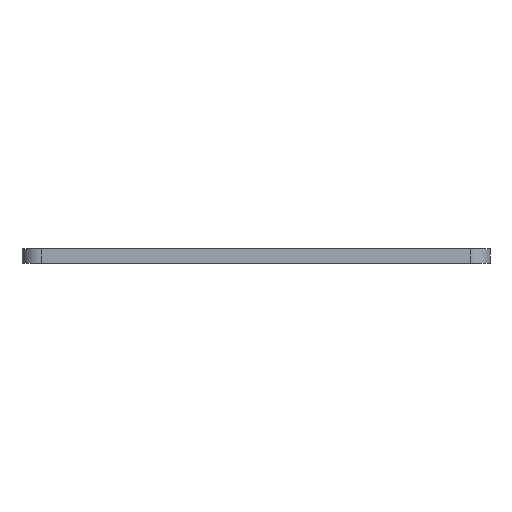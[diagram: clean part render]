
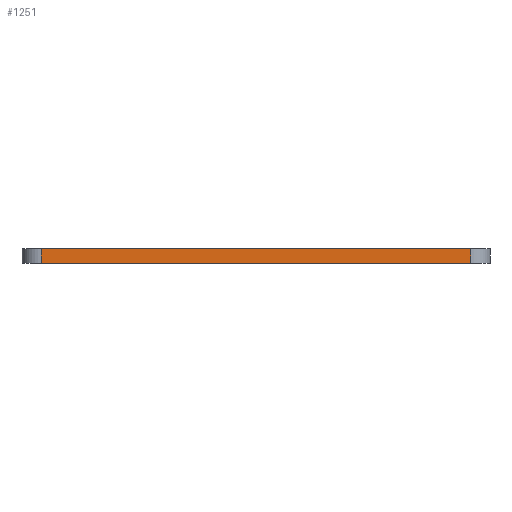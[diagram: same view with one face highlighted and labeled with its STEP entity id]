
A CAD part, left-side view. The second image highlights one B-rep face of the part: STEP entity #1251.
In plain terms, the highlighted planar face has unit normal (-1, 0, 0).
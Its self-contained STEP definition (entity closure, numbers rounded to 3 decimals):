
#54=PLANE('',#1354);
#87=FACE_OUTER_BOUND('',#154,.T.);
#154=EDGE_LOOP('',(#919,#920,#921,#922));
#227=LINE('',#1805,#353);
#229=LINE('',#1811,#355);
#267=LINE('',#1941,#393);
#268=LINE('',#1942,#394);
#353=VECTOR('',#1445,10.);
#355=VECTOR('',#1451,10.);
#393=VECTOR('',#1545,10.);
#394=VECTOR('',#1546,10.);
#536=VERTEX_POINT('',#1802);
#537=VERTEX_POINT('',#1804);
#539=VERTEX_POINT('',#1810);
#603=VERTEX_POINT('',#1940);
#660=EDGE_CURVE('',#536,#537,#227,.T.);
#663=EDGE_CURVE('',#539,#537,#229,.T.);
#728=EDGE_CURVE('',#603,#536,#267,.T.);
#729=EDGE_CURVE('',#539,#603,#268,.T.);
#919=ORIENTED_EDGE('',*,*,#660,.F.);
#920=ORIENTED_EDGE('',*,*,#728,.F.);
#921=ORIENTED_EDGE('',*,*,#729,.F.);
#922=ORIENTED_EDGE('',*,*,#663,.T.);
#1251=ADVANCED_FACE('',(#87),#54,.T.);
#1354=AXIS2_PLACEMENT_3D('',#1939,#1543,#1544);
#1445=DIRECTION('',(0.,0.,1.));
#1451=DIRECTION('',(0.,1.,0.));
#1543=DIRECTION('center_axis',(-1.,0.,0.));
#1544=DIRECTION('ref_axis',(0.,1.,0.));
#1545=DIRECTION('',(0.,1.,0.));
#1546=DIRECTION('',(0.,0.,-1.));
#1802=CARTESIAN_POINT('',(31.638,-43.299,-3.));
#1804=CARTESIAN_POINT('',(31.638,-43.299,0.));
#1805=CARTESIAN_POINT('',(31.638,-43.299,0.));
#1810=CARTESIAN_POINT('',(31.638,-132.299,0.));
#1811=CARTESIAN_POINT('',(31.638,-136.299,0.));
#1939=CARTESIAN_POINT('Origin',(31.638,-136.299,0.));
#1940=CARTESIAN_POINT('',(31.638,-132.299,-3.));
#1941=CARTESIAN_POINT('',(31.638,-136.299,-3.));
#1942=CARTESIAN_POINT('',(31.638,-132.299,0.));
